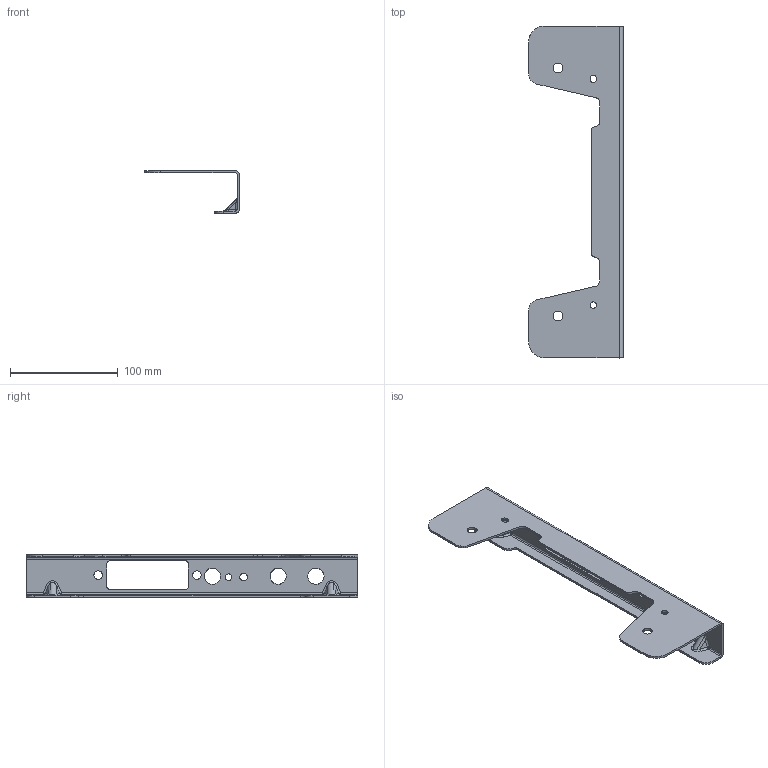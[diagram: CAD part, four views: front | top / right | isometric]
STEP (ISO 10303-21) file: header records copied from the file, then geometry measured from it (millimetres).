
FILE_DESCRIPTION(('CATIA V5 STEP Exchange'),'2;1');
FILE_NAME('D:\杨逍（新）\06-李燕龙\2023.1.9-G3新开件2D图纸-李燕龙\钣金单件图纸\SHT0015290-高配后支撑钣金\SHT0015290.stp','2023-01-11T06:32:48+00:00',('none'),('none'),'CATIA Version 5 Release 20 GA (IN-10)','CATIA V5 STEP AP214','none');
FILE_SCHEMA(('AUTOMOTIVE_DESIGN { 1 0 10303 214 1 1 1 1 }'));
Length unit declared in the file: millimetre
Products named in the file (1): Part60
Bounding box: 88 x 308 x 39.5 mm (x, y, z)
Volume: 55804.6 mm3; surface area: 58858.3 mm2
Topology: 1 solids, 1 shells, 144 faces, 394 edges, 232 vertices
Faces by surface type: cylinder 82, plane 34, sphere 20, bspline 8
Entity records: 6277 total; most frequent: CARTESIAN_POINT 3023, ORIENTED_EDGE 748, DIRECTION 504, EDGE_CURVE 374, VERTEX_POINT 232, AXIS2_PLACEMENT_3D 209, VECTOR 168, EDGE_LOOP 168
